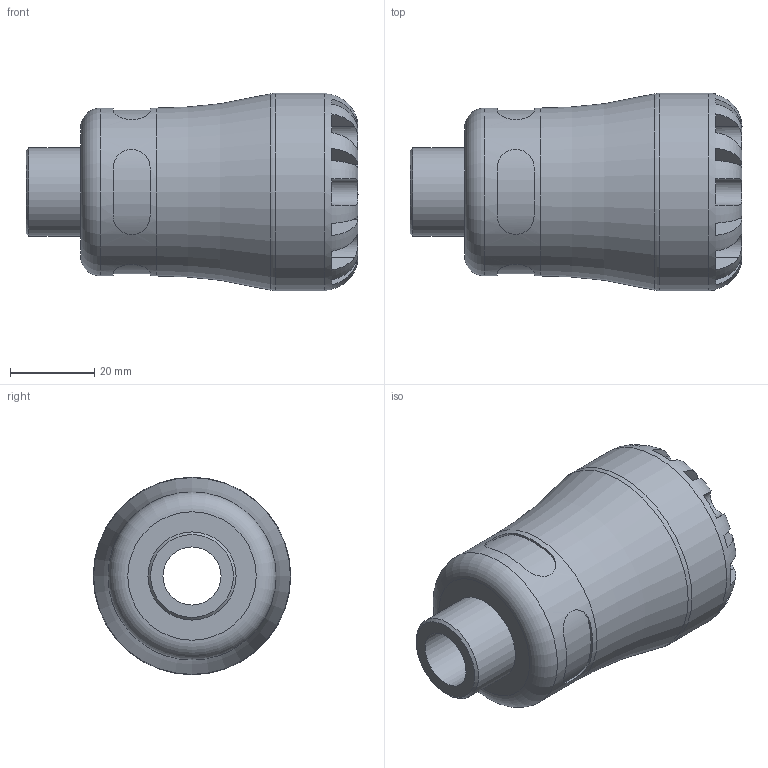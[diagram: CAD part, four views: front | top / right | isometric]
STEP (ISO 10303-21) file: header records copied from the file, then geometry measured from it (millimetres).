
FILE_DESCRIPTION(/* description */ ('PLASSON MALE INTEGRAL BRASS THREAD 25X1/2" SERIES 1'),/* implementation_level */ '2;1');
FILE_NAME(/* name */ 'C:\Dropbox\KIMPROJECTS-Inventor\99-16-3568-Processing\1072\107200025005_197200025005.ipt.stp',/* time_stamp */ '2017-01-22T10:48:45+02:00',/* author */ ('KIM'),/* organization */ (''),/* preprocessor_version */ 'ST-DEVELOPER v15.6',/* originating_system */ 'Autodesk Inventor 2015',/* authorisation */ '');
FILE_SCHEMA (('AUTOMOTIVE_DESIGN { 1 0 10303 214 3 1 1 }'));
Length unit declared in the file: millimetre
Products named in the file (1): 107200025005_197200025005
Bounding box: 79 x 47 x 47 mm (x, y, z)
Volume: 68123.1 mm3; surface area: 18058.3 mm2
Topology: 1 solids, 1 shells, 99 faces, 245 edges, 153 vertices
Faces by surface type: plane 60, cylinder 33, torus 4, cone 2
Full cylindrical faces by diameter (mm): 13.812 x1, 20.955 x1, 25 x1, 39.95 x1, 47 x1
Entity records: 3751 total; most frequent: CARTESIAN_POINT 1402, ORIENTED_EDGE 460, DIRECTION 452, EDGE_CURVE 230, AXIS2_PLACEMENT_3D 186, VERTEX_POINT 150, EDGE_LOOP 118, STYLED_ITEM 100
